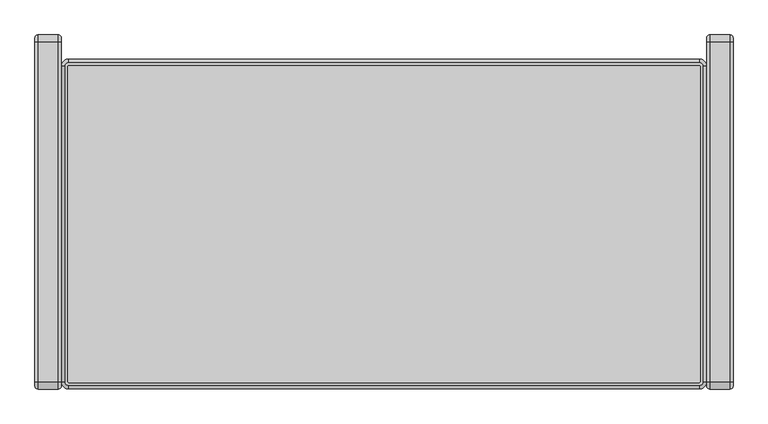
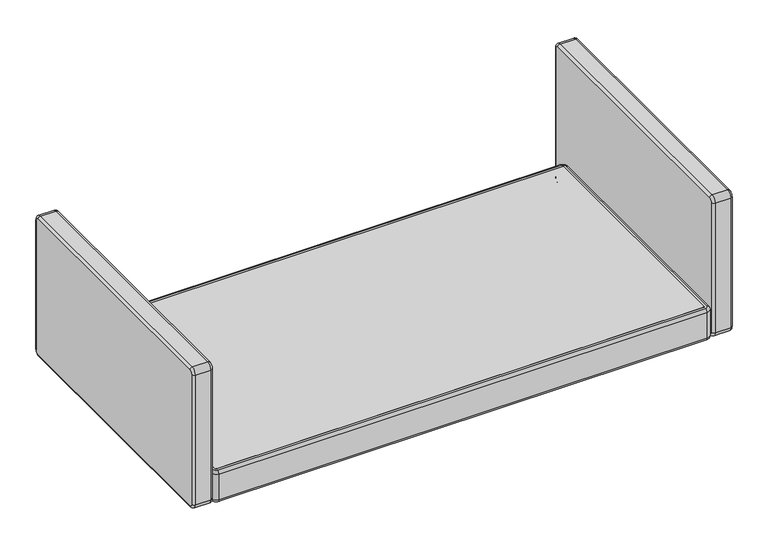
"""IFC4 building model written with IfcOpenShell, lengths in millimetres: furniture geometry, Fredericia - EJ220 Sofa 2 seater 76 - 2042 : Fredericia - EJ220 Sofa 2 seater 76 - 2042."""

from ifc_helpers import new_model, si_unit, point, frame, origin, place, context, project, spatial, circle_curve, ellipse_curve, trimmed, source, transform, mapped, element, save
from ifc_brep_helpers import plane_surface, cylinder_surface, revolved_surface, advanced_brep


def furniture_f1a134c2(model_context):
    return source(origin(), model_context, "Body", "AdvancedBrep", [
        advanced_brep(
        [(-740.9806054, 39.8, 192.7880862), (-740.9806054, 770.9641303, 192.7880862), (-731.3806054, 780.5641303, 192.7880862), (731.4177231, 780.5641303, 192.7880862), (741.0177231, 770.9641303, 192.7880862), (741.0177231, 39.8, 192.7880862), (731.4177231, 30.2, 192.7880862), (-731.3806054, 30.2, 192.7880862), (-731.3806054, 37.7, 290.0), (731.4177231, 37.7, 290.0), (733.5177231, 39.8, 290.0), (733.5177231, 770.9641303, 290.0), (731.4177231, 773.0641303, 290.0), (-731.3806054, 773.0641303, 290.0), (-733.4806054, 770.9641303, 290.0), (-733.4806054, 39.8, 290.0), (-731.3806054, 37.7, 289.8211901), (731.4177231, 37.7, 289.8211901), (733.5177231, 39.8, 289.8211901), (733.5177231, 770.9641303, 289.8211901), (731.4177231, 773.0641303, 289.8211901), (-731.3806054, 773.0641303, 289.8211901), (-733.4806054, 770.9641303, 289.8211901), (-733.4806054, 39.8, 289.8211901), (-748.4806054, 770.9641303, 200.2880862), (-748.4806054, 39.8, 200.2880862), (-748.4806054, 39.8, 282.3211901), (-748.4806054, 770.9641303, 282.3211901), (-740.9806054, 39.8, 289.8211901), (-740.9806054, 770.9641303, 289.8211901), (-731.3806054, 22.7, 200.2880862), (731.4177231, 22.7, 200.2880862), (731.4177231, 22.7, 282.3211901), (-731.3806054, 22.7, 282.3211901), (731.4177231, 30.2, 289.8211901), (-731.3806054, 30.2, 289.8211901), (748.5177231, 39.8, 200.2880862), (748.5177231, 770.9641303, 200.2880862), (748.5177231, 770.9641303, 282.3211901), (748.5177231, 39.8, 282.3211901), (741.0177231, 770.9641303, 289.8211901), (741.0177231, 39.8, 289.8211901), (731.4177231, 788.0641303, 200.2880862), (-731.3806054, 788.0641303, 200.2880862), (-731.3806054, 788.0641303, 282.3211901), (731.4177231, 788.0641303, 282.3211901), (-731.3806054, 780.5641303, 289.8211901), (731.4177231, 780.5641303, 289.8211901)],
        [
            (0, 1),
            (1, 2, circle_curve(frame((-731.3806054, 770.9641303, 192.7880862), z_axis=(0.0, 0.0, -1.0), x_axis=(0.0, 1.0, 0.0)), 9.6)),
            (2, 3),
            (3, 4, circle_curve(frame((731.4177231, 770.9641303, 192.7880862), z_axis=(0.0, 0.0, -1.0), x_axis=(1.0, 0.0, 0.0)), 9.6)),
            (4, 5),
            (5, 6, circle_curve(frame((731.4177231, 39.8, 192.7880862), z_axis=(0.0, 0.0, -1.0), x_axis=(0.0, -1.0, 0.0)), 9.6)),
            (6, 7),
            (7, 0, circle_curve(frame((-731.3806054, 39.8, 192.7880862), z_axis=(0.0, 0.0, -1.0), x_axis=(-1.0, 0.0, 0.0)), 9.6)),
            (8, 9),
            (9, 10, circle_curve(frame((731.4177231, 39.8, 290.0), z_axis=(0.0, 0.0, 1.0), x_axis=(0.0, 1.0, 0.0)), 2.1)),
            (10, 11),
            (11, 12, circle_curve(frame((731.4177231, 770.9641303, 290.0), z_axis=(0.0, 0.0, 1.0), x_axis=(0.0, 1.0, 0.0)), 2.1)),
            (12, 13),
            (13, 14, circle_curve(frame((-731.3806054, 770.9641303, 290.0), z_axis=(0.0, 0.0, 1.0), x_axis=(0.0, 1.0, 0.0)), 2.1)),
            (14, 15),
            (15, 8, circle_curve(frame((-731.3806054, 39.8, 290.0), z_axis=(0.0, 0.0, 1.0), x_axis=(0.0, 1.0, 0.0)), 2.1)),
            (8, 16),
            (16, 17),
            (17, 9),
            (17, 18, circle_curve(frame((731.4177231, 39.8, 289.8211901), z_axis=(0.0, 0.0, 1.0), x_axis=(0.0, 1.0, 0.0)), 2.1)),
            (18, 10),
            (18, 19),
            (19, 11),
            (19, 20, circle_curve(frame((731.4177231, 770.9641303, 289.8211901), z_axis=(0.0, 0.0, 1.0), x_axis=(0.0, 1.0, 0.0)), 2.1)),
            (20, 12),
            (20, 21),
            (21, 13),
            (21, 22, circle_curve(frame((-731.3806054, 770.9641303, 289.8211901), z_axis=(0.0, 0.0, 1.0), x_axis=(0.0, 1.0, 0.0)), 2.1)),
            (22, 14),
            (22, 23),
            (23, 15),
            (23, 16, circle_curve(frame((-731.3806054, 39.8, 289.8211901), z_axis=(0.0, 0.0, 1.0), x_axis=(0.0, 1.0, 0.0)), 2.1)),
            (24, 1, circle_curve(frame((-740.9806054, 770.9641303, 200.2880862), z_axis=(0.0, -1.0, 0.0), x_axis=(1.0, 0.0, 0.0)), 7.5)),
            (0, 25, circle_curve(frame((-740.9806054, 39.8, 200.2880862), z_axis=(0.0, 1.0, 0.0), x_axis=(1.0, 0.0, 0.0)), 7.5)),
            (25, 24),
            (25, 26),
            (26, 27),
            (27, 24),
            (26, 28, circle_curve(frame((-740.9806054, 39.8, 282.3211901), z_axis=(0.0, 1.0, 0.0), x_axis=(1.0, 0.0, 0.0)), 7.5)),
            (28, 29),
            (29, 27, circle_curve(frame((-740.9806054, 770.9641303, 282.3211901), z_axis=(0.0, -1.0, 0.0), x_axis=(1.0, 0.0, 0.0)), 7.5)),
            (30, 7, circle_curve(frame((-731.3806054, 30.2, 200.2880862), z_axis=(1.0, 0.0, 0.0), x_axis=(0.0, 1.0, 0.0)), 7.5)),
            (6, 31, circle_curve(frame((731.4177231, 30.2, 200.2880862), z_axis=(-1.0, 0.0, 0.0), x_axis=(0.0, 1.0, 0.0)), 7.5)),
            (31, 30),
            (31, 32),
            (32, 33),
            (33, 30),
            (32, 34, circle_curve(frame((731.4177231, 30.2, 282.3211901), z_axis=(-1.0, 0.0, 0.0), x_axis=(0.0, 1.0, 0.0)), 7.5)),
            (34, 35),
            (35, 33, circle_curve(frame((-731.3806054, 30.2, 282.3211901), z_axis=(1.0, 0.0, 0.0), x_axis=(0.0, 1.0, 0.0)), 7.5)),
            (36, 5, circle_curve(frame((741.0177231, 39.8, 200.2880862), z_axis=(0.0, 1.0, 0.0), x_axis=(-1.0, 0.0, 0.0)), 7.5)),
            (4, 37, circle_curve(frame((741.0177231, 770.9641303, 200.2880862), z_axis=(0.0, -1.0, 0.0), x_axis=(-1.0, 0.0, 0.0)), 7.5)),
            (37, 36),
            (37, 38),
            (38, 39),
            (39, 36),
            (38, 40, circle_curve(frame((741.0177231, 770.9641303, 282.3211901), z_axis=(0.0, -1.0, 0.0), x_axis=(-1.0, 0.0, 0.0)), 7.5)),
            (40, 41),
            (41, 39, circle_curve(frame((741.0177231, 39.8, 282.3211901), z_axis=(0.0, 1.0, 0.0), x_axis=(-1.0, 0.0, 0.0)), 7.5)),
            (42, 3, circle_curve(frame((731.4177231, 780.5641303, 200.2880862), z_axis=(-1.0, 0.0, 0.0), x_axis=(0.0, -1.0, 0.0)), 7.5)),
            (2, 43, circle_curve(frame((-731.3806054, 780.5641303, 200.2880862), z_axis=(1.0, 0.0, 0.0), x_axis=(0.0, -1.0, 0.0)), 7.5)),
            (43, 42),
            (43, 44),
            (44, 45),
            (45, 42),
            (44, 46, circle_curve(frame((-731.3806054, 780.5641303, 282.3211901), z_axis=(1.0, 0.0, 0.0), x_axis=(0.0, -1.0, 0.0)), 7.5)),
            (46, 47),
            (47, 45, circle_curve(frame((731.4177231, 780.5641303, 282.3211901), z_axis=(-1.0, 0.0, 0.0), x_axis=(0.0, -1.0, 0.0)), 7.5)),
            (24, 43, circle_curve(frame((-731.3806054, 770.9641303, 200.2880862), z_axis=(0.0, 0.0, -1.0), x_axis=(0.0, 1.0, 0.0)), 17.1)),
            (27, 44, circle_curve(frame((-731.3806054, 770.9641303, 282.3211901), z_axis=(0.0, 0.0, -1.0), x_axis=(0.0, 1.0, 0.0)), 17.1)),
            (29, 46, circle_curve(frame((-731.3806054, 770.9641303, 289.8211901), z_axis=(0.0, 0.0, -1.0), x_axis=(0.0, 1.0, 0.0)), 9.6)),
            (30, 25, circle_curve(frame((-731.3806054, 39.8, 200.2880862), z_axis=(0.0, 0.0, -1.0), x_axis=(-1.0, 0.0, 0.0)), 17.1)),
            (33, 26, circle_curve(frame((-731.3806054, 39.8, 282.3211901), z_axis=(0.0, 0.0, -1.0), x_axis=(-1.0, 0.0, 0.0)), 17.1)),
            (35, 28, circle_curve(frame((-731.3806054, 39.8, 289.8211901), z_axis=(0.0, 0.0, -1.0), x_axis=(-1.0, 0.0, 0.0)), 9.6)),
            (36, 31, circle_curve(frame((731.4177231, 39.8, 200.2880862), z_axis=(0.0, 0.0, -1.0), x_axis=(0.0, -1.0, 0.0)), 17.1)),
            (39, 32, circle_curve(frame((731.4177231, 39.8, 282.3211901), z_axis=(0.0, 0.0, -1.0), x_axis=(0.0, -1.0, 0.0)), 17.1)),
            (41, 34, circle_curve(frame((731.4177231, 39.8, 289.8211901), z_axis=(0.0, 0.0, -1.0), x_axis=(0.0, -1.0, 0.0)), 9.6)),
            (42, 37, circle_curve(frame((731.4177231, 770.9641303, 200.2880862), z_axis=(0.0, 0.0, -1.0), x_axis=(1.0, 0.0, 0.0)), 17.1)),
            (45, 38, circle_curve(frame((731.4177231, 770.9641303, 282.3211901), z_axis=(0.0, 0.0, -1.0), x_axis=(1.0, 0.0, 0.0)), 17.1)),
            (47, 40, circle_curve(frame((731.4177231, 770.9641303, 289.8211901), z_axis=(0.0, 0.0, -1.0), x_axis=(1.0, 0.0, 0.0)), 9.6)),
        ],
        [
            plane_surface(frame((401.9530797, 37.7, 192.7880862), z_axis=(0.0, 0.0, -1.0), x_axis=(-1.0, 0.0, 0.0))),
            plane_surface(frame((401.9530797, 37.7, 290.0), z_axis=(0.0, 0.0, 1.0), x_axis=(1.0, 0.0, 0.0))),
            plane_surface(frame((-731.3806054, 37.7, 290.0), z_axis=(0.0, -1.0, 0.0), x_axis=(0.0, 0.0, -1.0))),
            cylinder_surface(frame((731.4177231, 39.8, 192.7880862), z_axis=(0.0, 0.0, 1.0), x_axis=(0.0, 1.0, 0.0)), 2.1),
            plane_surface(frame((733.5177231, 39.8, 290.0), z_axis=(1.0, 0.0, 0.0), x_axis=(0.0, 0.0, -1.0))),
            cylinder_surface(frame((731.4177231, 770.9641303, 192.7880862), z_axis=(0.0, 0.0, 1.0), x_axis=(0.0, 1.0, 0.0)), 2.1),
            plane_surface(frame((731.4177231, 773.0641303, 290.0), z_axis=(0.0, 1.0, 0.0), x_axis=(0.0, 0.0, -1.0))),
            cylinder_surface(frame((-731.3806054, 770.9641303, 192.7880862), z_axis=(0.0, 0.0, 1.0), x_axis=(0.0, 1.0, 0.0)), 2.1),
            plane_surface(frame((-733.4806054, 770.9641303, 290.0), z_axis=(-1.0, 0.0, 0.0), x_axis=(0.0, 0.0, -1.0))),
            cylinder_surface(frame((-731.3806054, 39.8, 192.7880862), z_axis=(0.0, 0.0, 1.0), x_axis=(0.0, 1.0, 0.0)), 2.1),
            cylinder_surface(frame((-740.9806054, 770.9641303, 200.2880862), z_axis=(0.0, 1.0, 0.0), x_axis=(1.0, 0.0, 0.0)), 7.5),
            plane_surface(frame((-748.4806054, 770.9641303, 200.2880862), z_axis=(-1.0, 0.0, 0.0), x_axis=(0.0, -1.0, 0.0))),
            cylinder_surface(frame((-740.9806054, 770.9641303, 282.3211901), z_axis=(0.0, 1.0, 0.0), x_axis=(1.0, 0.0, 0.0)), 7.5),
            cylinder_surface(frame((-731.3806054, 30.2, 200.2880862), z_axis=(-1.0, 0.0, 0.0), x_axis=(0.0, 1.0, 0.0)), 7.5),
            plane_surface(frame((-731.3806054, 22.7, 200.2880862), z_axis=(0.0, -1.0, 0.0), x_axis=(1.0, 0.0, 0.0))),
            cylinder_surface(frame((-731.3806054, 30.2, 282.3211901), z_axis=(-1.0, 0.0, 0.0), x_axis=(0.0, 1.0, 0.0)), 7.5),
            cylinder_surface(frame((741.0177231, 39.8, 200.2880862), z_axis=(0.0, -1.0, 0.0), x_axis=(-1.0, 0.0, 0.0)), 7.5),
            plane_surface(frame((748.5177231, 39.8, 200.2880862), z_axis=(1.0, 0.0, 0.0), x_axis=(0.0, 1.0, 0.0))),
            cylinder_surface(frame((741.0177231, 39.8, 282.3211901), z_axis=(0.0, -1.0, 0.0), x_axis=(-1.0, 0.0, 0.0)), 7.5),
            cylinder_surface(frame((731.4177231, 780.5641303, 200.2880862), z_axis=(1.0, 0.0, 0.0), x_axis=(0.0, -1.0, 0.0)), 7.5),
            plane_surface(frame((731.4177231, 788.0641303, 200.2880862), z_axis=(0.0, 1.0, 0.0), x_axis=(-1.0, 0.0, 0.0))),
            cylinder_surface(frame((731.4177231, 780.5641303, 282.3211901), z_axis=(1.0, 0.0, 0.0), x_axis=(0.0, -1.0, 0.0)), 7.5),
            revolved_surface(trimmed(ellipse_curve(frame((-731.3806054, 780.5641303, 200.2880862), z_axis=(1.0, 0.0, 0.0), x_axis=(0.0, -1.0, 0.0)), 7.5, 7.5), [point((-731.3806054, 780.5641303, 192.7880862))], [point((-731.3806054, 788.0641303, 200.2880862))], True, "CARTESIAN"), (-731.3806054, 770.9641303, 334.7169816), (0.0, 0.0, 1.0)),
            cylinder_surface(frame((-731.3806054, 770.9641303, 334.7169816), z_axis=(0.0, 0.0, 1.0), x_axis=(0.0, 1.0, 0.0)), 17.1),
            revolved_surface(trimmed(ellipse_curve(frame((-731.3806054, 780.5641303, 282.3211901), z_axis=(1.0, 0.0, 0.0), x_axis=(0.0, -1.0, 0.0)), 7.5, 7.5), [point((-731.3806054, 788.0641303, 282.3211901))], [point((-731.3806054, 780.5641303, 289.8211901))], True, "CARTESIAN"), (-731.3806054, 770.9641303, 334.7169816), (0.0, 0.0, 1.0)),
            revolved_surface(trimmed(ellipse_curve(frame((-740.9806054, 39.8, 200.2880862), z_axis=(0.0, 1.0, 0.0), x_axis=(1.0, 0.0, 0.0)), 7.5, 7.5), [point((-740.9806054, 39.8, 192.7880862))], [point((-748.4806054, 39.8, 200.2880862))], True, "CARTESIAN"), (-731.3806054, 39.8, 334.7169816), (0.0, 0.0, 1.0)),
            cylinder_surface(frame((-731.3806054, 39.8, 334.7169816), z_axis=(0.0, 0.0, 1.0), x_axis=(-1.0, 0.0, 0.0)), 17.1),
            revolved_surface(trimmed(ellipse_curve(frame((-740.9806054, 39.8, 282.3211901), z_axis=(0.0, 1.0, 0.0), x_axis=(1.0, 0.0, 0.0)), 7.5, 7.5), [point((-748.4806054, 39.8, 282.3211901))], [point((-740.9806054, 39.8, 289.8211901))], True, "CARTESIAN"), (-731.3806054, 39.8, 334.7169816), (0.0, 0.0, 1.0)),
            revolved_surface(trimmed(ellipse_curve(frame((731.4177231, 30.2, 200.2880862), z_axis=(-1.0, 0.0, 0.0), x_axis=(0.0, 1.0, 0.0)), 7.5, 7.5), [point((731.4177231, 30.2, 192.7880862))], [point((731.4177231, 22.7, 200.2880862))], True, "CARTESIAN"), (731.4177231, 39.8, 334.7169816), (0.0, 0.0, 1.0)),
            cylinder_surface(frame((731.4177231, 39.8, 334.7169816), z_axis=(0.0, 0.0, 1.0), x_axis=(0.0, -1.0, 0.0)), 17.1),
            revolved_surface(trimmed(ellipse_curve(frame((731.4177231, 30.2, 282.3211901), z_axis=(-1.0, 0.0, 0.0), x_axis=(0.0, 1.0, 0.0)), 7.5, 7.5), [point((731.4177231, 22.7, 282.3211901))], [point((731.4177231, 30.2, 289.8211901))], True, "CARTESIAN"), (731.4177231, 39.8, 334.7169816), (0.0, 0.0, 1.0)),
            revolved_surface(trimmed(ellipse_curve(frame((741.0177231, 770.9641303, 200.2880862), z_axis=(0.0, -1.0, 0.0), x_axis=(-1.0, 0.0, 0.0)), 7.5, 7.5), [point((741.0177231, 770.9641303, 192.7880862))], [point((748.5177231, 770.9641303, 200.2880862))], True, "CARTESIAN"), (731.4177231, 770.9641303, 334.7169816), (0.0, 0.0, 1.0)),
            cylinder_surface(frame((731.4177231, 770.9641303, 334.7169816), z_axis=(0.0, 0.0, 1.0), x_axis=(1.0, 0.0, 0.0)), 17.1),
            revolved_surface(trimmed(ellipse_curve(frame((741.0177231, 770.9641303, 282.3211901), z_axis=(0.0, -1.0, 0.0), x_axis=(-1.0, 0.0, 0.0)), 7.5, 7.5), [point((748.5177231, 770.9641303, 282.3211901))], [point((741.0177231, 770.9641303, 289.8211901))], True, "CARTESIAN"), (731.4177231, 770.9641303, 334.7169816), (0.0, 0.0, 1.0)),
            plane_surface(frame((731.4177231, 770.9641303, 289.8211901), z_axis=(0.0, 0.0, 1.0), x_axis=(1.0, 0.0, 0.0))),
        ],
        [
            (0, [[1, 2, 3, 4, 5, 6, 7, 8]]),
            (1, [[9, 10, 11, 12, 13, 14, 15, 16]]),
            (2, [[-9, 17, 18, 19]]),
            (3, [[-10, -19, 20, 21]]),
            (4, [[-11, -21, 22, 23]]),
            (5, [[-12, -23, 24, 25]]),
            (6, [[-13, -25, 26, 27]]),
            (7, [[-14, -27, 28, 29]]),
            (8, [[-15, -29, 30, 31]]),
            (9, [[-16, -31, 32, -17]]),
            (10, [[33, -1, 34, 35]]),
            (11, [[-35, 36, 37, 38]]),
            (12, [[-37, 39, 40, 41]]),
            (13, [[42, -7, 43, 44]]),
            (14, [[-44, 45, 46, 47]]),
            (15, [[-46, 48, 49, 50]]),
            (16, [[51, -5, 52, 53]]),
            (17, [[-53, 54, 55, 56]]),
            (18, [[-55, 57, 58, 59]]),
            (19, [[60, -3, 61, 62]]),
            (20, [[-62, 63, 64, 65]]),
            (21, [[-64, 66, 67, 68]]),
            (22, [[-33, 69, -61, -2]]),
            (23, [[-38, 70, -63, -69]]),
            (24, [[-41, 71, -66, -70]]),
            (25, [[-34, -8, -42, 72]]),
            (26, [[-36, -72, -47, 73]]),
            (27, [[-39, -73, -50, 74]]),
            (28, [[-43, -6, -51, 75]]),
            (29, [[-45, -75, -56, 76]]),
            (30, [[-48, -76, -59, 77]]),
            (31, [[-52, -4, -60, 78]]),
            (32, [[-54, -78, -65, 79]]),
            (33, [[-57, -79, -68, 80]]),
            (34, [[-40, -74, -49, -77, -58, -80, -67, -71], [-18, -32, -30, -28, -26, -24, -22, -20]]),
        ],
    ),
        advanced_brep(
        [(748.5741915, 30.0408096, 209.855155), (748.5741915, 30.0408096, 620.2295429), (748.5741915, 39.6408096, 629.8295429), (748.5741915, 827.1001985, 629.8295429), (748.5741915, 836.7001985, 620.2295429), (748.5741915, 836.7001985, 209.855155), (748.5741915, 827.1001985, 200.255155), (748.5741915, 39.6408096, 200.255155), (810.0, 30.0408096, 620.2295429), (810.0, 30.0408096, 209.855155), (810.0, 39.6408096, 200.255155), (810.0, 827.1001985, 200.255155), (810.0, 836.7001985, 209.855155), (810.0, 836.7001985, 620.2295429), (810.0, 827.1001985, 629.8295429), (810.0, 39.6408096, 629.8295429), (756.0741915, 22.5408096, 209.855155), (756.0741915, 22.5408096, 620.2295429), (802.5, 22.5408096, 209.855155), (802.5, 22.5408096, 620.2295429), (756.0741915, 39.6408096, 637.3295429), (756.0741915, 827.1001985, 637.3295429), (802.5, 39.6408096, 637.3295429), (802.5, 827.1001985, 637.3295429), (756.0741915, 844.2001985, 620.2295429), (756.0741915, 844.2001985, 209.855155), (802.5, 844.2001985, 620.2295429), (802.5, 844.2001985, 209.855155), (756.0741915, 827.1001985, 192.755155), (756.0741915, 39.6408096, 192.755155), (802.5, 827.1001985, 192.755155), (802.5, 39.6408096, 192.755155)],
        [
            (0, 1),
            (1, 2, circle_curve(frame((748.5741915, 39.6408096, 620.2295429), z_axis=(-1.0, 0.0, 0.0), x_axis=(0.0, -1.0, 0.0)), 9.6)),
            (2, 3),
            (3, 4, circle_curve(frame((748.5741915, 827.1001985, 620.2295429), z_axis=(-1.0, 0.0, 0.0), x_axis=(0.0, 0.0, 1.0)), 9.6)),
            (4, 5),
            (5, 6, circle_curve(frame((748.5741915, 827.1001985, 209.855155), z_axis=(-1.0, 0.0, 0.0), x_axis=(0.0, 1.0, 0.0)), 9.6)),
            (6, 7),
            (7, 0, circle_curve(frame((748.5741915, 39.6408096, 209.855155), z_axis=(-1.0, 0.0, 0.0), x_axis=(0.0, 0.0, -1.0)), 9.6)),
            (8, 9),
            (9, 10, circle_curve(frame((810.0, 39.6408096, 209.855155), z_axis=(1.0, 0.0, 0.0), x_axis=(0.0, 0.0, -1.0)), 9.6)),
            (10, 11),
            (11, 12, circle_curve(frame((810.0, 827.1001985, 209.855155), z_axis=(1.0, 0.0, 0.0), x_axis=(0.0, 1.0, 0.0)), 9.6)),
            (12, 13),
            (13, 14, circle_curve(frame((810.0, 827.1001985, 620.2295429), z_axis=(1.0, 0.0, 0.0), x_axis=(0.0, 0.0, 1.0)), 9.6)),
            (14, 15),
            (15, 8, circle_curve(frame((810.0, 39.6408096, 620.2295429), z_axis=(1.0, 0.0, 0.0), x_axis=(0.0, -1.0, 0.0)), 9.6)),
            (0, 16, circle_curve(frame((756.0741915, 30.0408096, 209.855155), z_axis=(0.0, 0.0, 1.0), x_axis=(0.0, 1.0, 0.0)), 7.5)),
            (16, 17),
            (17, 1, circle_curve(frame((756.0741915, 30.0408096, 620.2295429), z_axis=(0.0, 0.0, -1.0), x_axis=(0.0, 1.0, 0.0)), 7.5)),
            (16, 18),
            (18, 19),
            (19, 17),
            (18, 9, circle_curve(frame((802.5, 30.0408096, 209.855155), z_axis=(0.0, 0.0, 1.0), x_axis=(0.0, 1.0, 0.0)), 7.5)),
            (8, 19, circle_curve(frame((802.5, 30.0408096, 620.2295429), z_axis=(0.0, 0.0, -1.0), x_axis=(0.0, 1.0, 0.0)), 7.5)),
            (2, 20, circle_curve(frame((756.0741915, 39.6408096, 629.8295429), z_axis=(0.0, 1.0, 0.0), x_axis=(0.0, 0.0, -1.0)), 7.5)),
            (20, 21),
            (21, 3, circle_curve(frame((756.0741915, 827.1001985, 629.8295429), z_axis=(0.0, -1.0, 0.0), x_axis=(0.0, 0.0, -1.0)), 7.5)),
            (20, 22),
            (22, 23),
            (23, 21),
            (22, 15, circle_curve(frame((802.5, 39.6408096, 629.8295429), z_axis=(0.0, 1.0, 0.0), x_axis=(0.0, 0.0, -1.0)), 7.5)),
            (14, 23, circle_curve(frame((802.5, 827.1001985, 629.8295429), z_axis=(0.0, -1.0, 0.0), x_axis=(0.0, 0.0, -1.0)), 7.5)),
            (4, 24, circle_curve(frame((756.0741915, 836.7001985, 620.2295429), z_axis=(0.0, 0.0, -1.0), x_axis=(0.0, -1.0, 0.0)), 7.5)),
            (24, 25),
            (25, 5, circle_curve(frame((756.0741915, 836.7001985, 209.855155), z_axis=(0.0, 0.0, 1.0), x_axis=(0.0, -1.0, 0.0)), 7.5)),
            (24, 26),
            (26, 27),
            (27, 25),
            (26, 13, circle_curve(frame((802.5, 836.7001985, 620.2295429), z_axis=(0.0, 0.0, -1.0), x_axis=(0.0, -1.0, 0.0)), 7.5)),
            (12, 27, circle_curve(frame((802.5, 836.7001985, 209.855155), z_axis=(0.0, 0.0, 1.0), x_axis=(0.0, -1.0, 0.0)), 7.5)),
            (6, 28, circle_curve(frame((756.0741915, 827.1001985, 200.255155), z_axis=(0.0, -1.0, 0.0), x_axis=(0.0, 0.0, 1.0)), 7.5)),
            (28, 29),
            (29, 7, circle_curve(frame((756.0741915, 39.6408096, 200.255155), z_axis=(0.0, 1.0, 0.0), x_axis=(0.0, 0.0, 1.0)), 7.5)),
            (28, 30),
            (30, 31),
            (31, 29),
            (30, 11, circle_curve(frame((802.5, 827.1001985, 200.255155), z_axis=(0.0, -1.0, 0.0), x_axis=(0.0, 0.0, 1.0)), 7.5)),
            (10, 31, circle_curve(frame((802.5, 39.6408096, 200.255155), z_axis=(0.0, 1.0, 0.0), x_axis=(0.0, 0.0, 1.0)), 7.5)),
            (29, 16, circle_curve(frame((756.0741915, 39.6408096, 209.855155), z_axis=(-1.0, 0.0, 0.0), x_axis=(0.0, 0.0, -1.0)), 17.1)),
            (31, 18, circle_curve(frame((802.5, 39.6408096, 209.855155), z_axis=(-1.0, 0.0, 0.0), x_axis=(0.0, 0.0, -1.0)), 17.1)),
            (17, 20, circle_curve(frame((756.0741915, 39.6408096, 620.2295429), z_axis=(-1.0, 0.0, 0.0), x_axis=(0.0, -1.0, 0.0)), 17.1)),
            (19, 22, circle_curve(frame((802.5, 39.6408096, 620.2295429), z_axis=(-1.0, 0.0, 0.0), x_axis=(0.0, -1.0, 0.0)), 17.1)),
            (21, 24, circle_curve(frame((756.0741915, 827.1001985, 620.2295429), z_axis=(-1.0, 0.0, 0.0), x_axis=(0.0, 0.0, 1.0)), 17.1)),
            (23, 26, circle_curve(frame((802.5, 827.1001985, 620.2295429), z_axis=(-1.0, 0.0, 0.0), x_axis=(0.0, 0.0, 1.0)), 17.1)),
            (25, 28, circle_curve(frame((756.0741915, 827.1001985, 209.855155), z_axis=(-1.0, 0.0, 0.0), x_axis=(0.0, 1.0, 0.0)), 17.1)),
            (27, 30, circle_curve(frame((802.5, 827.1001985, 209.855155), z_axis=(-1.0, 0.0, 0.0), x_axis=(0.0, 1.0, 0.0)), 17.1)),
        ],
        [
            plane_surface(frame((748.5741915, 39.6408096, 618.1295429), z_axis=(-1.0, 0.0, 0.0), x_axis=(0.0, -1.0, 0.0))),
            plane_surface(frame((810.0, 39.6408096, 618.1295429), z_axis=(1.0, 0.0, 0.0), x_axis=(0.0, 1.0, 0.0))),
            cylinder_surface(frame((756.0741915, 30.0408096, 209.855155), z_axis=(0.0, 0.0, -1.0), x_axis=(0.0, 1.0, 0.0)), 7.5),
            plane_surface(frame((802.5, 22.5408096, 209.855155), z_axis=(0.0, -1.0, 0.0), x_axis=(0.0, 0.0, 1.0))),
            cylinder_surface(frame((802.5, 30.0408096, 209.855155), z_axis=(0.0, 0.0, -1.0), x_axis=(0.0, 1.0, 0.0)), 7.5),
            cylinder_surface(frame((756.0741915, 39.6408096, 629.8295429), z_axis=(0.0, -1.0, 0.0), x_axis=(0.0, 0.0, -1.0)), 7.5),
            plane_surface(frame((802.5, 39.6408096, 637.3295429), z_axis=(0.0, 0.0, 1.0), x_axis=(0.0, 1.0, 0.0))),
            cylinder_surface(frame((802.5, 39.6408096, 629.8295429), z_axis=(0.0, -1.0, 0.0), x_axis=(0.0, 0.0, -1.0)), 7.5),
            cylinder_surface(frame((756.0741915, 836.7001985, 620.2295429), z_axis=(0.0, 0.0, 1.0), x_axis=(0.0, -1.0, 0.0)), 7.5),
            plane_surface(frame((802.5, 844.2001985, 620.2295429), z_axis=(0.0, 1.0, 0.0), x_axis=(0.0, 0.0, -1.0))),
            cylinder_surface(frame((802.5, 836.7001985, 620.2295429), z_axis=(0.0, 0.0, 1.0), x_axis=(0.0, -1.0, 0.0)), 7.5),
            cylinder_surface(frame((756.0741915, 827.1001985, 200.255155), z_axis=(0.0, 1.0, 0.0), x_axis=(0.0, 0.0, 1.0)), 7.5),
            plane_surface(frame((802.5, 827.1001985, 192.755155), z_axis=(0.0, 0.0, -1.0), x_axis=(0.0, -1.0, 0.0))),
            cylinder_surface(frame((802.5, 827.1001985, 200.255155), z_axis=(0.0, 1.0, 0.0), x_axis=(0.0, 0.0, 1.0)), 7.5),
            revolved_surface(trimmed(ellipse_curve(frame((756.0741915, 39.6408096, 200.255155), z_axis=(0.0, 1.0, 0.0), x_axis=(0.0, 0.0, 1.0)), 7.5, 7.5), [point((756.0741915, 39.6408096, 192.755155))], [point((748.5741915, 39.6408096, 200.255155))], True, "CARTESIAN"), (810.0, 39.6408096, 209.855155), (-1.0, 0.0, 0.0)),
            cylinder_surface(frame((810.0, 39.6408096, 209.855155), z_axis=(-1.0, 0.0, 0.0), x_axis=(0.0, 0.0, -1.0)), 17.1),
            revolved_surface(trimmed(ellipse_curve(frame((802.5, 39.6408096, 200.255155), z_axis=(0.0, 1.0, 0.0), x_axis=(0.0, 0.0, 1.0)), 7.5, 7.5), [point((810.0, 39.6408096, 200.255155))], [point((802.5, 39.6408096, 192.755155))], True, "CARTESIAN"), (810.0, 39.6408096, 209.855155), (-1.0, 0.0, 0.0)),
            revolved_surface(trimmed(ellipse_curve(frame((756.0741915, 30.0408096, 620.2295429), z_axis=(0.0, 0.0, -1.0), x_axis=(0.0, 1.0, 0.0)), 7.5, 7.5), [point((756.0741915, 22.5408096, 620.2295429))], [point((748.5741915, 30.0408096, 620.2295429))], True, "CARTESIAN"), (810.0, 39.6408096, 620.2295429), (-1.0, 0.0, 0.0)),
            cylinder_surface(frame((810.0, 39.6408096, 620.2295429), z_axis=(-1.0, 0.0, 0.0), x_axis=(0.0, -1.0, 0.0)), 17.1),
            revolved_surface(trimmed(ellipse_curve(frame((802.5, 30.0408096, 620.2295429), z_axis=(0.0, 0.0, -1.0), x_axis=(0.0, 1.0, 0.0)), 7.5, 7.5), [point((810.0, 30.0408096, 620.2295429))], [point((802.5, 22.5408096, 620.2295429))], True, "CARTESIAN"), (810.0, 39.6408096, 620.2295429), (-1.0, 0.0, 0.0)),
            revolved_surface(trimmed(ellipse_curve(frame((756.0741915, 827.1001985, 629.8295429), z_axis=(0.0, -1.0, 0.0), x_axis=(0.0, 0.0, -1.0)), 7.5, 7.5), [point((756.0741915, 827.1001985, 637.3295429))], [point((748.5741915, 827.1001985, 629.8295429))], True, "CARTESIAN"), (810.0, 827.1001985, 620.2295429), (-1.0, 0.0, 0.0)),
            cylinder_surface(frame((810.0, 827.1001985, 620.2295429), z_axis=(-1.0, 0.0, 0.0), x_axis=(0.0, 0.0, 1.0)), 17.1),
            revolved_surface(trimmed(ellipse_curve(frame((802.5, 827.1001985, 629.8295429), z_axis=(0.0, -1.0, 0.0), x_axis=(0.0, 0.0, -1.0)), 7.5, 7.5), [point((810.0, 827.1001985, 629.8295429))], [point((802.5, 827.1001985, 637.3295429))], True, "CARTESIAN"), (810.0, 827.1001985, 620.2295429), (-1.0, 0.0, 0.0)),
            revolved_surface(trimmed(ellipse_curve(frame((756.0741915, 836.7001985, 209.855155), z_axis=(0.0, 0.0, 1.0), x_axis=(0.0, -1.0, 0.0)), 7.5, 7.5), [point((756.0741915, 844.2001985, 209.855155))], [point((748.5741915, 836.7001985, 209.855155))], True, "CARTESIAN"), (810.0, 827.1001985, 209.855155), (-1.0, 0.0, 0.0)),
            cylinder_surface(frame((810.0, 827.1001985, 209.855155), z_axis=(-1.0, 0.0, 0.0), x_axis=(0.0, 1.0, 0.0)), 17.1),
            revolved_surface(trimmed(ellipse_curve(frame((802.5, 836.7001985, 209.855155), z_axis=(0.0, 0.0, 1.0), x_axis=(0.0, -1.0, 0.0)), 7.5, 7.5), [point((810.0, 836.7001985, 209.855155))], [point((802.5, 844.2001985, 209.855155))], True, "CARTESIAN"), (810.0, 827.1001985, 209.855155), (-1.0, 0.0, 0.0)),
        ],
        [
            (0, [[1, 2, 3, 4, 5, 6, 7, 8]]),
            (1, [[9, 10, 11, 12, 13, 14, 15, 16]]),
            (2, [[17, 18, 19, -1]]),
            (3, [[-18, 20, 21, 22]]),
            (4, [[-21, 23, -9, 24]]),
            (5, [[25, 26, 27, -3]]),
            (6, [[-26, 28, 29, 30]]),
            (7, [[-29, 31, -15, 32]]),
            (8, [[33, 34, 35, -5]]),
            (9, [[-34, 36, 37, 38]]),
            (10, [[-37, 39, -13, 40]]),
            (11, [[41, 42, 43, -7]]),
            (12, [[-42, 44, 45, 46]]),
            (13, [[-45, 47, -11, 48]]),
            (14, [[-17, -8, -43, 49]]),
            (15, [[-20, -49, -46, 50]]),
            (16, [[-23, -50, -48, -10]]),
            (17, [[-19, 51, -25, -2]]),
            (18, [[-22, 52, -28, -51]]),
            (19, [[-24, -16, -31, -52]]),
            (20, [[-27, 53, -33, -4]]),
            (21, [[-30, 54, -36, -53]]),
            (22, [[-32, -14, -39, -54]]),
            (23, [[-35, 55, -41, -6]]),
            (24, [[-38, 56, -44, -55]]),
            (25, [[-40, -12, -47, -56]]),
        ],
    ),
        advanced_brep(
        [(-748.5711307, 30.0408096, 620.2295429), (-748.5711307, 30.0408096, 209.855155), (-748.5711307, 39.6408096, 200.255155), (-748.5711307, 827.1001985, 200.255155), (-748.5711307, 836.7001985, 209.855155), (-748.5711307, 836.7001985, 620.2295429), (-748.5711307, 827.1001985, 629.8295429), (-748.5711307, 39.6408096, 629.8295429), (-810.0, 30.0408096, 209.855155), (-810.0, 30.0408096, 620.2295429), (-810.0, 39.6408096, 629.8295429), (-810.0, 827.1001985, 629.8295429), (-810.0, 836.7001985, 620.2295429), (-810.0, 836.7001985, 209.855155), (-810.0, 827.1001985, 200.255155), (-810.0, 39.6408096, 200.255155), (-756.0711307, 22.5408096, 209.855155), (-756.0711307, 22.5408096, 620.2295429), (-802.5, 22.5408096, 620.2295429), (-802.5, 22.5408096, 209.855155), (-756.0711307, 39.6408096, 637.3295429), (-756.0711307, 827.1001985, 637.3295429), (-802.5, 827.1001985, 637.3295429), (-802.5, 39.6408096, 637.3295429), (-756.0711307, 844.2001985, 620.2295429), (-756.0711307, 844.2001985, 209.855155), (-802.5, 844.2001985, 209.855155), (-802.5, 844.2001985, 620.2295429), (-756.0711307, 827.1001985, 192.755155), (-756.0711307, 39.6408096, 192.755155), (-802.5, 39.6408096, 192.755155), (-802.5, 827.1001985, 192.755155)],
        [
            (0, 1),
            (1, 2, circle_curve(frame((-748.5711307, 39.6408096, 209.855155), z_axis=(1.0, 0.0, 0.0), x_axis=(0.0, 0.0, -1.0)), 9.6)),
            (2, 3),
            (3, 4, circle_curve(frame((-748.5711307, 827.1001985, 209.855155), z_axis=(1.0, 0.0, 0.0), x_axis=(0.0, 1.0, 0.0)), 9.6)),
            (4, 5),
            (5, 6, circle_curve(frame((-748.5711307, 827.1001985, 620.2295429), z_axis=(1.0, 0.0, 0.0), x_axis=(0.0, 0.0, 1.0)), 9.6)),
            (6, 7),
            (7, 0, circle_curve(frame((-748.5711307, 39.6408096, 620.2295429), z_axis=(1.0, 0.0, 0.0), x_axis=(0.0, -1.0, 0.0)), 9.6)),
            (8, 9),
            (9, 10, circle_curve(frame((-810.0, 39.6408096, 620.2295429), z_axis=(-1.0, 0.0, 0.0), x_axis=(0.0, -1.0, 0.0)), 9.6)),
            (10, 11),
            (11, 12, circle_curve(frame((-810.0, 827.1001985, 620.2295429), z_axis=(-1.0, 0.0, 0.0), x_axis=(0.0, 0.0, 1.0)), 9.6)),
            (12, 13),
            (13, 14, circle_curve(frame((-810.0, 827.1001985, 209.855155), z_axis=(-1.0, 0.0, 0.0), x_axis=(0.0, 1.0, 0.0)), 9.6)),
            (14, 15),
            (15, 8, circle_curve(frame((-810.0, 39.6408096, 209.855155), z_axis=(-1.0, 0.0, 0.0), x_axis=(0.0, 0.0, -1.0)), 9.6)),
            (16, 1, circle_curve(frame((-756.0711307, 30.0408096, 209.855155), z_axis=(0.0, 0.0, 1.0), x_axis=(0.0, 1.0, 0.0)), 7.5)),
            (0, 17, circle_curve(frame((-756.0711307, 30.0408096, 620.2295429), z_axis=(0.0, 0.0, -1.0), x_axis=(0.0, 1.0, 0.0)), 7.5)),
            (17, 16),
            (17, 18),
            (18, 19),
            (19, 16),
            (18, 9, circle_curve(frame((-802.5, 30.0408096, 620.2295429), z_axis=(0.0, 0.0, -1.0), x_axis=(0.0, 1.0, 0.0)), 7.5)),
            (8, 19, circle_curve(frame((-802.5, 30.0408096, 209.855155), z_axis=(0.0, 0.0, 1.0), x_axis=(0.0, 1.0, 0.0)), 7.5)),
            (20, 7, circle_curve(frame((-756.0711307, 39.6408096, 629.8295429), z_axis=(0.0, 1.0, 0.0), x_axis=(0.0, 0.0, -1.0)), 7.5)),
            (6, 21, circle_curve(frame((-756.0711307, 827.1001985, 629.8295429), z_axis=(0.0, -1.0, 0.0), x_axis=(0.0, 0.0, -1.0)), 7.5)),
            (21, 20),
            (21, 22),
            (22, 23),
            (23, 20),
            (22, 11, circle_curve(frame((-802.5, 827.1001985, 629.8295429), z_axis=(0.0, -1.0, 0.0), x_axis=(0.0, 0.0, -1.0)), 7.5)),
            (10, 23, circle_curve(frame((-802.5, 39.6408096, 629.8295429), z_axis=(0.0, 1.0, 0.0), x_axis=(0.0, 0.0, -1.0)), 7.5)),
            (24, 5, circle_curve(frame((-756.0711307, 836.7001985, 620.2295429), z_axis=(0.0, 0.0, -1.0), x_axis=(0.0, -1.0, 0.0)), 7.5)),
            (4, 25, circle_curve(frame((-756.0711307, 836.7001985, 209.855155), z_axis=(0.0, 0.0, 1.0), x_axis=(0.0, -1.0, 0.0)), 7.5)),
            (25, 24),
            (25, 26),
            (26, 27),
            (27, 24),
            (26, 13, circle_curve(frame((-802.5, 836.7001985, 209.855155), z_axis=(0.0, 0.0, 1.0), x_axis=(0.0, -1.0, 0.0)), 7.5)),
            (12, 27, circle_curve(frame((-802.5, 836.7001985, 620.2295429), z_axis=(0.0, 0.0, -1.0), x_axis=(0.0, -1.0, 0.0)), 7.5)),
            (28, 3, circle_curve(frame((-756.0711307, 827.1001985, 200.255155), z_axis=(0.0, -1.0, 0.0), x_axis=(0.0, 0.0, 1.0)), 7.5)),
            (2, 29, circle_curve(frame((-756.0711307, 39.6408096, 200.255155), z_axis=(0.0, 1.0, 0.0), x_axis=(0.0, 0.0, 1.0)), 7.5)),
            (29, 28),
            (29, 30),
            (30, 31),
            (31, 28),
            (30, 15, circle_curve(frame((-802.5, 39.6408096, 200.255155), z_axis=(0.0, 1.0, 0.0), x_axis=(0.0, 0.0, 1.0)), 7.5)),
            (14, 31, circle_curve(frame((-802.5, 827.1001985, 200.255155), z_axis=(0.0, -1.0, 0.0), x_axis=(0.0, 0.0, 1.0)), 7.5)),
            (16, 29, circle_curve(frame((-756.0711307, 39.6408096, 209.855155), z_axis=(1.0, 0.0, 0.0), x_axis=(0.0, 0.0, -1.0)), 17.1)),
            (19, 30, circle_curve(frame((-802.5, 39.6408096, 209.855155), z_axis=(1.0, 0.0, 0.0), x_axis=(0.0, 0.0, -1.0)), 17.1)),
            (20, 17, circle_curve(frame((-756.0711307, 39.6408096, 620.2295429), z_axis=(1.0, 0.0, 0.0), x_axis=(0.0, -1.0, 0.0)), 17.1)),
            (23, 18, circle_curve(frame((-802.5, 39.6408096, 620.2295429), z_axis=(1.0, 0.0, 0.0), x_axis=(0.0, -1.0, 0.0)), 17.1)),
            (24, 21, circle_curve(frame((-756.0711307, 827.1001985, 620.2295429), z_axis=(1.0, 0.0, 0.0), x_axis=(0.0, 0.0, 1.0)), 17.1)),
            (27, 22, circle_curve(frame((-802.5, 827.1001985, 620.2295429), z_axis=(1.0, 0.0, 0.0), x_axis=(0.0, 0.0, 1.0)), 17.1)),
            (28, 25, circle_curve(frame((-756.0711307, 827.1001985, 209.855155), z_axis=(1.0, 0.0, 0.0), x_axis=(0.0, 1.0, 0.0)), 17.1)),
            (31, 26, circle_curve(frame((-802.5, 827.1001985, 209.855155), z_axis=(1.0, 0.0, 0.0), x_axis=(0.0, 1.0, 0.0)), 17.1)),
        ],
        [
            plane_surface(frame((-748.5711307, 829.2001985, 622.3295429), z_axis=(1.0, 0.0, 0.0), x_axis=(0.0, -1.0, 0.0))),
            plane_surface(frame((-810.0, 829.2001985, 622.3295429), z_axis=(-1.0, 0.0, 0.0), x_axis=(0.0, 1.0, 0.0))),
            cylinder_surface(frame((-756.0711307, 30.0408096, 209.855155), z_axis=(0.0, 0.0, -1.0), x_axis=(0.0, 1.0, 0.0)), 7.5),
            plane_surface(frame((-756.0711307, 22.5408096, 209.855155), z_axis=(0.0, -1.0, 0.0), x_axis=(0.0, 0.0, 1.0))),
            cylinder_surface(frame((-802.5, 30.0408096, 209.855155), z_axis=(0.0, 0.0, -1.0), x_axis=(0.0, 1.0, 0.0)), 7.5),
            cylinder_surface(frame((-756.0711307, 39.6408096, 629.8295429), z_axis=(0.0, -1.0, 0.0), x_axis=(0.0, 0.0, -1.0)), 7.5),
            plane_surface(frame((-756.0711307, 39.6408096, 637.3295429), z_axis=(0.0, 0.0, 1.0), x_axis=(0.0, 1.0, 0.0))),
            cylinder_surface(frame((-802.5, 39.6408096, 629.8295429), z_axis=(0.0, -1.0, 0.0), x_axis=(0.0, 0.0, -1.0)), 7.5),
            cylinder_surface(frame((-756.0711307, 836.7001985, 620.2295429), z_axis=(0.0, 0.0, 1.0), x_axis=(0.0, -1.0, 0.0)), 7.5),
            plane_surface(frame((-756.0711307, 844.2001985, 620.2295429), z_axis=(0.0, 1.0, 0.0), x_axis=(0.0, 0.0, -1.0))),
            cylinder_surface(frame((-802.5, 836.7001985, 620.2295429), z_axis=(0.0, 0.0, 1.0), x_axis=(0.0, -1.0, 0.0)), 7.5),
            cylinder_surface(frame((-756.0711307, 827.1001985, 200.255155), z_axis=(0.0, 1.0, 0.0), x_axis=(0.0, 0.0, 1.0)), 7.5),
            plane_surface(frame((-756.0711307, 827.1001985, 192.755155), z_axis=(0.0, 0.0, -1.0), x_axis=(0.0, -1.0, 0.0))),
            cylinder_surface(frame((-802.5, 827.1001985, 200.255155), z_axis=(0.0, 1.0, 0.0), x_axis=(0.0, 0.0, 1.0)), 7.5),
            revolved_surface(trimmed(ellipse_curve(frame((-756.0711307, 39.6408096, 200.255155), z_axis=(0.0, 1.0, 0.0), x_axis=(0.0, 0.0, 1.0)), 7.5, 7.5), [point((-748.5711307, 39.6408096, 200.255155))], [point((-756.0711307, 39.6408096, 192.755155))], True, "CARTESIAN"), (-810.0, 39.6408096, 209.855155), (-1.0, 0.0, 0.0)),
            cylinder_surface(frame((-810.0, 39.6408096, 209.855155), z_axis=(-1.0, 0.0, 0.0), x_axis=(0.0, 0.0, -1.0)), 17.1),
            revolved_surface(trimmed(ellipse_curve(frame((-802.5, 39.6408096, 200.255155), z_axis=(0.0, 1.0, 0.0), x_axis=(0.0, 0.0, 1.0)), 7.5, 7.5), [point((-802.5, 39.6408096, 192.755155))], [point((-810.0, 39.6408096, 200.255155))], True, "CARTESIAN"), (-810.0, 39.6408096, 209.855155), (-1.0, 0.0, 0.0)),
            revolved_surface(trimmed(ellipse_curve(frame((-756.0711307, 30.0408096, 620.2295429), z_axis=(0.0, 0.0, -1.0), x_axis=(0.0, 1.0, 0.0)), 7.5, 7.5), [point((-748.5711307, 30.0408096, 620.2295429))], [point((-756.0711307, 22.5408096, 620.2295429))], True, "CARTESIAN"), (-810.0, 39.6408096, 620.2295429), (-1.0, 0.0, 0.0)),
            cylinder_surface(frame((-810.0, 39.6408096, 620.2295429), z_axis=(-1.0, 0.0, 0.0), x_axis=(0.0, -1.0, 0.0)), 17.1),
            revolved_surface(trimmed(ellipse_curve(frame((-802.5, 30.0408096, 620.2295429), z_axis=(0.0, 0.0, -1.0), x_axis=(0.0, 1.0, 0.0)), 7.5, 7.5), [point((-802.5, 22.5408096, 620.2295429))], [point((-810.0, 30.0408096, 620.2295429))], True, "CARTESIAN"), (-810.0, 39.6408096, 620.2295429), (-1.0, 0.0, 0.0)),
            revolved_surface(trimmed(ellipse_curve(frame((-756.0711307, 827.1001985, 629.8295429), z_axis=(0.0, -1.0, 0.0), x_axis=(0.0, 0.0, -1.0)), 7.5, 7.5), [point((-748.5711307, 827.1001985, 629.8295429))], [point((-756.0711307, 827.1001985, 637.3295429))], True, "CARTESIAN"), (-810.0, 827.1001985, 620.2295429), (-1.0, 0.0, 0.0)),
            cylinder_surface(frame((-810.0, 827.1001985, 620.2295429), z_axis=(-1.0, 0.0, 0.0), x_axis=(0.0, 0.0, 1.0)), 17.1),
            revolved_surface(trimmed(ellipse_curve(frame((-802.5, 827.1001985, 629.8295429), z_axis=(0.0, -1.0, 0.0), x_axis=(0.0, 0.0, -1.0)), 7.5, 7.5), [point((-802.5, 827.1001985, 637.3295429))], [point((-810.0, 827.1001985, 629.8295429))], True, "CARTESIAN"), (-810.0, 827.1001985, 620.2295429), (-1.0, 0.0, 0.0)),
            revolved_surface(trimmed(ellipse_curve(frame((-756.0711307, 836.7001985, 209.855155), z_axis=(0.0, 0.0, 1.0), x_axis=(0.0, -1.0, 0.0)), 7.5, 7.5), [point((-748.5711307, 836.7001985, 209.855155))], [point((-756.0711307, 844.2001985, 209.855155))], True, "CARTESIAN"), (-810.0, 827.1001985, 209.855155), (-1.0, 0.0, 0.0)),
            cylinder_surface(frame((-810.0, 827.1001985, 209.855155), z_axis=(-1.0, 0.0, 0.0), x_axis=(0.0, 1.0, 0.0)), 17.1),
            revolved_surface(trimmed(ellipse_curve(frame((-802.5, 836.7001985, 209.855155), z_axis=(0.0, 0.0, 1.0), x_axis=(0.0, -1.0, 0.0)), 7.5, 7.5), [point((-802.5, 844.2001985, 209.855155))], [point((-810.0, 836.7001985, 209.855155))], True, "CARTESIAN"), (-810.0, 827.1001985, 209.855155), (-1.0, 0.0, 0.0)),
        ],
        [
            (0, [[1, 2, 3, 4, 5, 6, 7, 8]]),
            (1, [[9, 10, 11, 12, 13, 14, 15, 16]]),
            (2, [[17, -1, 18, 19]]),
            (3, [[-19, 20, 21, 22]]),
            (4, [[-21, 23, -9, 24]]),
            (5, [[25, -7, 26, 27]]),
            (6, [[-27, 28, 29, 30]]),
            (7, [[-29, 31, -11, 32]]),
            (8, [[33, -5, 34, 35]]),
            (9, [[-35, 36, 37, 38]]),
            (10, [[-37, 39, -13, 40]]),
            (11, [[41, -3, 42, 43]]),
            (12, [[-43, 44, 45, 46]]),
            (13, [[-45, 47, -15, 48]]),
            (14, [[-17, 49, -42, -2]]),
            (15, [[-22, 50, -44, -49]]),
            (16, [[-24, -16, -47, -50]]),
            (17, [[-18, -8, -25, 51]]),
            (18, [[-20, -51, -30, 52]]),
            (19, [[-23, -52, -32, -10]]),
            (20, [[-26, -6, -33, 53]]),
            (21, [[-28, -53, -38, 54]]),
            (22, [[-31, -54, -40, -12]]),
            (23, [[-34, -4, -41, 55]]),
            (24, [[-36, -55, -46, 56]]),
            (25, [[-39, -56, -48, -14]]),
        ],
    ),
    ])


if __name__ == "__main__":
    model = new_model("IFC4")
    model_context = context("Model", 3, world=origin())
    ifc_project = project(units=[si_unit("LENGTHUNIT", "METRE", prefix="MILLI")], contexts=[model_context])
    site = spatial("IfcSite", under=ifc_project)
    building = spatial("IfcBuilding", under=site)
    placement = place(None, origin())
    furniture_shape = furniture_f1a134c2(model_context)
    element("IfcFurniture", 1, ObjectType="Fredericia - EJ220 Sofa 2 seater 76 - 2042 : Fredericia - EJ220 Sofa 2 seater 76 - 2042", at=placement, inside=building, context=model_context, shape_type="MappedRepresentation", body=[
        mapped(furniture_shape, transform((0.0, 0.0, 0.0), x_axis=(1.0, 0.0, 0.0), y_axis=(0.0, 1.0, 0.0), z_axis=(0.0, 0.0, 1.0))),
    ])
    save(model, "model.ifc")
